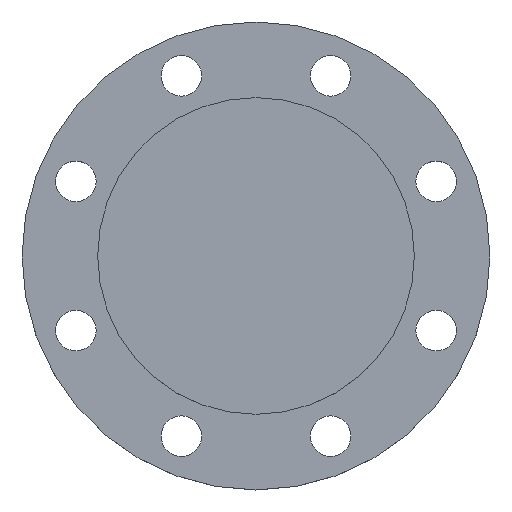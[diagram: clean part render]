
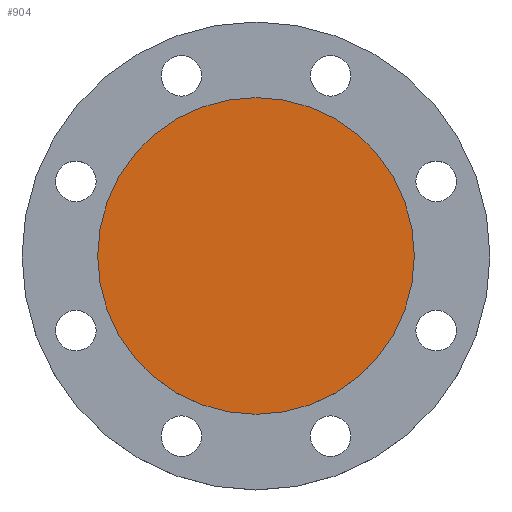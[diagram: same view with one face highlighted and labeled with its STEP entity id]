
A CAD part, top view. The second image highlights one B-rep face of the part: STEP entity #904.
In plain terms, the highlighted planar face has unit normal (0, 0, 1).
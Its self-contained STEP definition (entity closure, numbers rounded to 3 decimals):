
#56 = CARTESIAN_POINT ( 'NONE',  ( 0., 0., 0. ) ) ;
#92 = DIRECTION ( 'NONE',  ( 1., 0., 0. ) ) ;
#93 = DIRECTION ( 'NONE',  ( 0., 0., 1. ) ) ;
#94 = CARTESIAN_POINT ( 'NONE',  ( 0., 0., 0. ) ) ;
#95 = PLANE ( 'NONE',  #516 ) ;
#96 = FACE_OUTER_BOUND ( 'NONE', #803, .T. ) ;
#137 = CARTESIAN_POINT ( 'NONE',  ( 101.5, 0., 0. ) ) ;
#224 = CIRCLE ( 'NONE', #749, 101.5 ) ;
#278 = DIRECTION ( 'NONE',  ( -1., 0., 0. ) ) ;
#279 = DIRECTION ( 'NONE',  ( 0., 0., -1. ) ) ;
#280 = CARTESIAN_POINT ( 'NONE',  ( 0., 0., 0. ) ) ;
#308 = CARTESIAN_POINT ( 'NONE',  ( -101.5, 0., 0. ) ) ;
#331 = EDGE_CURVE ( 'NONE', #856, #636, #419, .T. ) ;
#412 = AXIS2_PLACEMENT_3D ( 'NONE', #56, #416, #417 ) ;
#416 = DIRECTION ( 'NONE',  ( 0., 0., -1. ) ) ;
#417 = DIRECTION ( 'NONE',  ( -1., 0., 0. ) ) ;
#419 = CIRCLE ( 'NONE', #412, 101.5 ) ;
#516 = AXIS2_PLACEMENT_3D ( 'NONE', #94, #93, #92 ) ;
#636 = VERTEX_POINT ( 'NONE', #308 ) ;
#701 = EDGE_CURVE ( 'NONE', #636, #856, #224, .T. ) ;
#715 = ORIENTED_EDGE ( 'NONE', *, *, #701, .F. ) ;
#717 = ORIENTED_EDGE ( 'NONE', *, *, #331, .F. ) ;
#749 = AXIS2_PLACEMENT_3D ( 'NONE', #280, #279, #278 ) ;
#803 = EDGE_LOOP ( 'NONE', ( #715, #717 ) ) ;
#856 = VERTEX_POINT ( 'NONE', #137 ) ;
#904 = ADVANCED_FACE ( 'NONE', ( #96 ), #95, .T. ) ;
